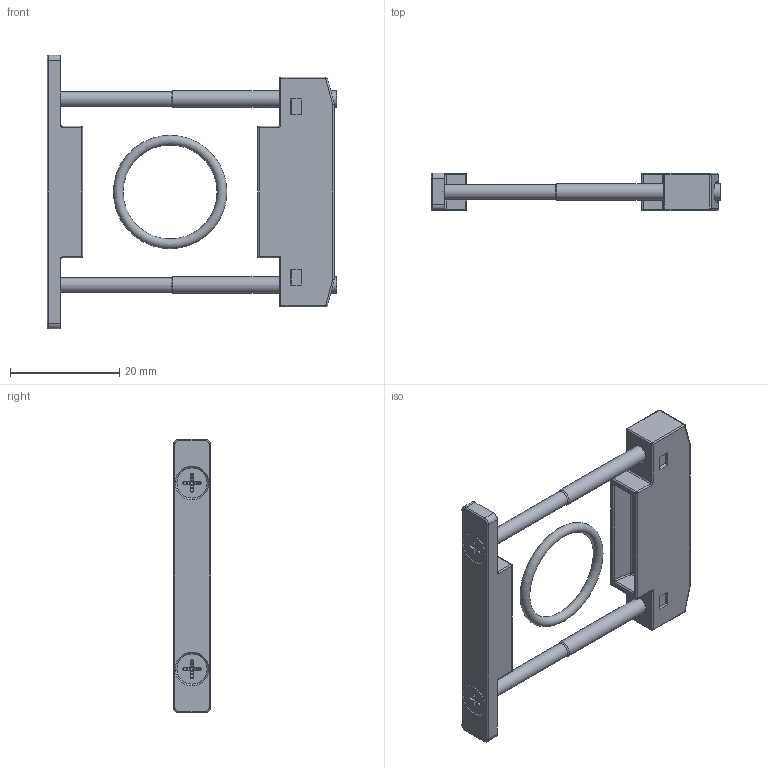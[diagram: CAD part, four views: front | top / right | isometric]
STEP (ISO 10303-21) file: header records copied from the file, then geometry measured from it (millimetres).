
FILE_DESCRIPTION(/* description */ (''),/* implementation_level */ '2;1');
FILE_NAME(/* name */ 'K:\ZEICHNG\Tristan\Steps Björn\035762; KKOP.0.stp',/* time_stamp */ '2022-02-04T13:08:24+01:00',/* author */ ('Tristan.Beckmann'),/* organization */ (''),/* preprocessor_version */ 'ST-DEVELOPER v18',/* originating_system */ 'Autodesk Inventor 2020',/* authorisation */ '');
FILE_SCHEMA (('AUTOMOTIVE_DESIGN { 1 0 10303 214 3 1 1 }'));
Length unit declared in the file: millimetre
Products named in the file (6): 10014231.iam; 035731; 10012462; DIN 562 - M3; 048733; 002651
Assembly tree (7 placements, depth 2):
  10014231.iam
    035731
    10012462
    DIN 562 - M3  x2
    048733  x2
    002651
Bounding box: 53 x 6.8 x 50 mm (x, y, z)
Volume: 4027.9 mm3; surface area: 5716 mm2
Topology: 7 solids, 7 shells, 758 faces, 1962 edges, 1218 vertices
Faces by surface type: plane 318, bspline 190, cylinder 157, torus 35, cone 30, sphere 28
Full cylindrical faces by diameter (mm): 0.3 x4, 2.459 x2, 2.693 x2, 3 x2, 3.2 x2, 3.3 x4, 5.5 x2, 6 x1
Entity records: 23822 total; most frequent: CARTESIAN_POINT 6816, ORIENTED_EDGE 3634, DIRECTION 2981, EDGE_CURVE 1817, VERTEX_POINT 1150, LINE 1055, VECTOR 1055, AXIS2_PLACEMENT_3D 963
